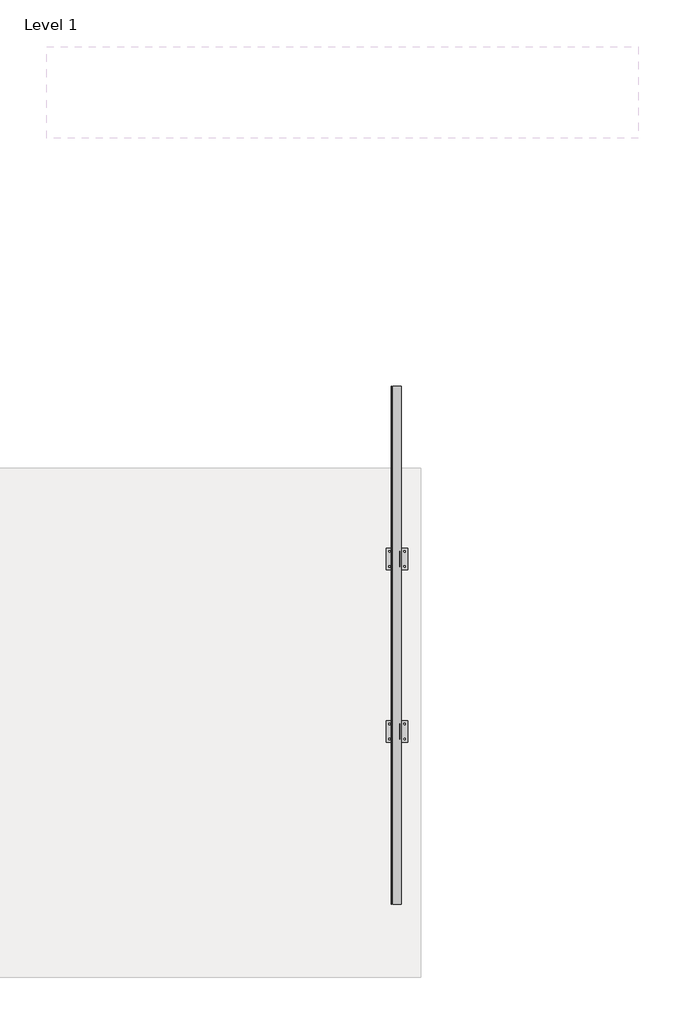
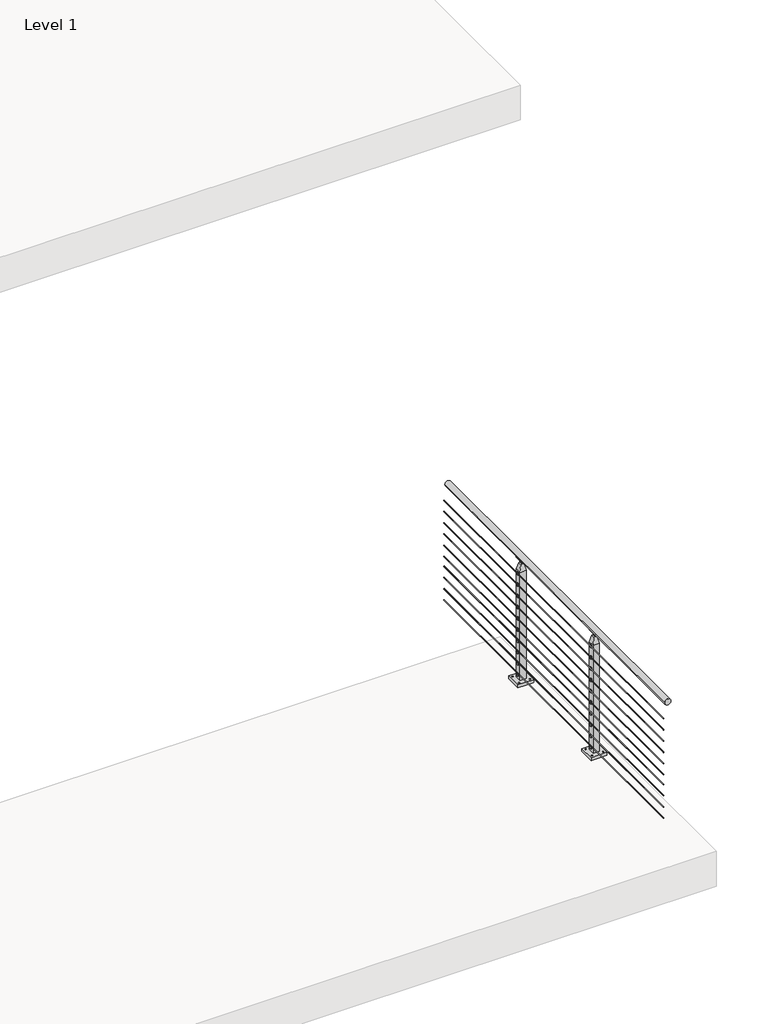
# One storey, part 6 of 26: 1 railing.
"""IFC4 building model written with IfcOpenShell, lengths in millimetres."""

from ifc_helpers import new_model, si_unit, point, frame, frame_2d, origin, origin_with_axes, place, context, project, spatial, polyline, circle_curve, trimmed, segment, composite_curve, outline, extrude, faceted_brep, element, save
from ifc_brep_helpers import plane_surface, cylinder_surface, advanced_brep

model = new_model("IFC4")

# Units and contexts
model_context = context("Model", 3, world=origin())
ifc_project = project(units=[si_unit("LENGTHUNIT", "METRE", prefix="MILLI")], contexts=[model_context])

# Site, building, storey
site = spatial("IfcSite", under=ifc_project)
building = spatial("IfcBuilding", under=site)
storey = spatial("IfcBuildingStorey", under=building, Name="Level 1", Elevation=0.0)

# Railing
placement = place(None, origin())
element("IfcRailing", 1, ObjectType="VIVA-CUBE-Multiline-Cable-Floor Mount-Straight", at=placement, inside=storey, context=model_context, shape_type="SolidModel", body=[
    extrude(outline(composite_curve([segment(trimmed(circle_curve(frame_2d((1054.1, 19603.8855247)), 25.4), [point((1054.1, 19629.2855247))], [point((1054.1, 19578.4855247))], False, "CARTESIAN"), True, "CONTINUOUS"), segment(trimmed(circle_curve(frame_2d((1054.1, 19603.8855247)), 25.4), [point((1054.1, 19578.4855247))], [point((1054.1, 19629.2855247))], False, "CARTESIAN"), True, "CONTINUOUS")], self_intersect=False)), frame((0.0, -73352.7943064, 0.0), z_axis=(0.0, 1.0, 0.0), x_axis=(0.0, 0.0, 1.0)), (0.0, 0.0, 1.0), 3048.0),
    extrude(outline(composite_curve([segment(trimmed(circle_curve(frame_2d((924.7124, 19570.8655247)), 2.3876), [point((924.7124, 19568.4779247))], [point((924.7124, 19573.2531247))], False, "CARTESIAN"), True, "CONTINUOUS"), segment(trimmed(circle_curve(frame_2d((924.7124, 19570.8655247)), 2.3876), [point((924.7124, 19573.2531247))], [point((924.7124, 19568.4779247))], False, "CARTESIAN"), True, "CONTINUOUS")], self_intersect=False)), frame((0.0, -73352.7943064, 0.0), z_axis=(0.0, 1.0, 0.0), x_axis=(0.0, 0.0, 1.0)), (0.0, 0.0, 1.0), 3048.0),
    extrude(outline(composite_curve([segment(trimmed(circle_curve(frame_2d((829.4624, 19570.8655247)), 2.3876), [point((829.4624, 19568.4779247))], [point((829.4624, 19573.2531247))], False, "CARTESIAN"), True, "CONTINUOUS"), segment(trimmed(circle_curve(frame_2d((829.4624, 19570.8655247)), 2.3876), [point((829.4624, 19573.2531247))], [point((829.4624, 19568.4779247))], False, "CARTESIAN"), True, "CONTINUOUS")], self_intersect=False)), frame((0.0, -73352.7943064, 0.0), z_axis=(0.0, 1.0, 0.0), x_axis=(0.0, 0.0, 1.0)), (0.0, 0.0, 1.0), 3048.0),
    extrude(outline(composite_curve([segment(trimmed(circle_curve(frame_2d((734.2124, 19570.8655247)), 2.3876), [point((734.2124, 19568.4779247))], [point((734.2124, 19573.2531247))], False, "CARTESIAN"), True, "CONTINUOUS"), segment(trimmed(circle_curve(frame_2d((734.2124, 19570.8655247)), 2.3876), [point((734.2124, 19573.2531247))], [point((734.2124, 19568.4779247))], False, "CARTESIAN"), True, "CONTINUOUS")], self_intersect=False)), frame((0.0, -73352.7943064, 0.0), z_axis=(0.0, 1.0, 0.0), x_axis=(0.0, 0.0, 1.0)), (0.0, 0.0, 1.0), 3048.0),
    extrude(outline(composite_curve([segment(trimmed(circle_curve(frame_2d((638.9624, 19570.8655247)), 2.3876), [point((638.9624, 19568.4779247))], [point((638.9624, 19573.2531247))], False, "CARTESIAN"), True, "CONTINUOUS"), segment(trimmed(circle_curve(frame_2d((638.9624, 19570.8655247)), 2.3876), [point((638.9624, 19573.2531247))], [point((638.9624, 19568.4779247))], False, "CARTESIAN"), True, "CONTINUOUS")], self_intersect=False)), frame((0.0, -73352.7943064, 0.0), z_axis=(0.0, 1.0, 0.0), x_axis=(0.0, 0.0, 1.0)), (0.0, 0.0, 1.0), 3048.0),
    extrude(outline(composite_curve([segment(trimmed(circle_curve(frame_2d((543.7124, 19570.8655247)), 2.3876), [point((543.7124, 19568.4779247))], [point((543.7124, 19573.2531247))], False, "CARTESIAN"), True, "CONTINUOUS"), segment(trimmed(circle_curve(frame_2d((543.7124, 19570.8655247)), 2.3876), [point((543.7124, 19573.2531247))], [point((543.7124, 19568.4779247))], False, "CARTESIAN"), True, "CONTINUOUS")], self_intersect=False)), frame((0.0, -73352.7943064, 0.0), z_axis=(0.0, 1.0, 0.0), x_axis=(0.0, 0.0, 1.0)), (0.0, 0.0, 1.0), 3048.0),
    extrude(outline(composite_curve([segment(trimmed(circle_curve(frame_2d((448.4624, 19570.8655247)), 2.3876), [point((448.4624, 19568.4779247))], [point((448.4624, 19573.2531247))], False, "CARTESIAN"), True, "CONTINUOUS"), segment(trimmed(circle_curve(frame_2d((448.4624, 19570.8655247)), 2.3876), [point((448.4624, 19573.2531247))], [point((448.4624, 19568.4779247))], False, "CARTESIAN"), True, "CONTINUOUS")], self_intersect=False)), frame((0.0, -73352.7943064, 0.0), z_axis=(0.0, 1.0, 0.0), x_axis=(0.0, 0.0, 1.0)), (0.0, 0.0, 1.0), 3048.0),
    extrude(outline(composite_curve([segment(trimmed(circle_curve(frame_2d((365.9124, 19570.8655247)), 2.3876), [point((365.9124, 19568.4779247))], [point((365.9124, 19573.2531247))], False, "CARTESIAN"), True, "CONTINUOUS"), segment(trimmed(circle_curve(frame_2d((365.9124, 19570.8655247)), 2.3876), [point((365.9124, 19573.2531247))], [point((365.9124, 19568.4779247))], False, "CARTESIAN"), True, "CONTINUOUS")], self_intersect=False)), frame((0.0, -73352.7943064, 0.0), z_axis=(0.0, 1.0, 0.0), x_axis=(0.0, 0.0, 1.0)), (0.0, 0.0, 1.0), 3048.0),
    extrude(outline(composite_curve([segment(trimmed(circle_curve(frame_2d((270.6624, 19570.8655247)), 2.3876), [point((270.6624, 19568.4779247))], [point((270.6624, 19573.2531247))], False, "CARTESIAN"), True, "CONTINUOUS"), segment(trimmed(circle_curve(frame_2d((270.6624, 19570.8655247)), 2.3876), [point((270.6624, 19573.2531247))], [point((270.6624, 19568.4779247))], False, "CARTESIAN"), True, "CONTINUOUS")], self_intersect=False)), frame((0.0, -73352.7943064, 0.0), z_axis=(0.0, 1.0, 0.0), x_axis=(0.0, 0.0, 1.0)), (0.0, 0.0, 1.0), 3048.0),
    extrude(outline(composite_curve([segment(trimmed(circle_curve(frame_2d((175.4124, 19570.8655247)), 2.3876), [point((175.4124, 19568.4779247))], [point((175.4124, 19573.2531247))], False, "CARTESIAN"), True, "CONTINUOUS"), segment(trimmed(circle_curve(frame_2d((175.4124, 19570.8655247)), 2.3876), [point((175.4124, 19573.2531247))], [point((175.4124, 19568.4779247))], False, "CARTESIAN"), True, "CONTINUOUS")], self_intersect=False)), frame((0.0, -73352.7943064, 0.0), z_axis=(0.0, 1.0, 0.0), x_axis=(0.0, 0.0, 1.0)), (0.0, 0.0, 1.0), 3048.0),
    extrude(outline(composite_curve([segment(trimmed(circle_curve(frame_2d((80.1624, 19570.8655247)), 2.3876), [point((80.1624, 19568.4779247))], [point((80.1624, 19573.2531247))], False, "CARTESIAN"), True, "CONTINUOUS"), segment(trimmed(circle_curve(frame_2d((80.1624, 19570.8655247)), 2.3876), [point((80.1624, 19573.2531247))], [point((80.1624, 19568.4779247))], False, "CARTESIAN"), True, "CONTINUOUS")], self_intersect=False)), frame((0.0, -73352.7943064, 0.0), z_axis=(0.0, 1.0, 0.0), x_axis=(0.0, 0.0, 1.0)), (0.0, 0.0, 1.0), 3048.0),
    advanced_brep(
    [(19573.1423505, -71307.3340985, 63.5), (19573.1423505, -71332.6670144, 63.5), (19573.1423505, -71320.0005564, 63.5), (19578.4763505, -71307.3340985, 63.5), (19578.4763505, -71332.6670144, 63.5), (19578.4763505, -71320.0005564, 63.5)],
    [
        (0, 1, circle_curve(frame((19573.1423505, -71320.0005564, 63.5), z_axis=(-1.0, 0.0, 0.0), x_axis=(0.0, -1.0, 0.0)), 12.666458)),
        (1, 2),
        (2, 0),
        (1, 0, circle_curve(frame((19573.1423505, -71320.0005564, 63.5), z_axis=(-1.0, 0.0, 0.0), x_axis=(0.0, -1.0, 0.0)), 12.666458)),
        (3, 4, circle_curve(frame((19578.4763505, -71320.0005564, 63.5), z_axis=(-1.0, 0.0, 0.0), x_axis=(0.0, -1.0, 0.0)), 12.666458)),
        (4, 1),
        (0, 3),
        (4, 3, circle_curve(frame((19578.4763505, -71320.0005564, 63.5), z_axis=(-1.0, 0.0, 0.0), x_axis=(0.0, -1.0, 0.0)), 12.666458)),
        (5, 4),
        (3, 5),
    ],
    [
        plane_surface(frame((19573.1423505, -71320.0005564, 63.5), z_axis=(-1.0, 0.0, 0.0), x_axis=(0.0, -1.0, 0.0))),
        cylinder_surface(frame((19705.4855247, -71320.0005564, 63.5), z_axis=(1.0, 0.0, 0.0), x_axis=(0.0, -1.0, 0.0)), 12.666458),
        plane_surface(frame((19578.4763505, -71320.0005564, 63.5), z_axis=(1.0, 0.0, 0.0), x_axis=(0.0, -1.0, 0.0))),
    ],
    [
        (0, [[1, 2, 3]]),
        (0, [[4, -3, -2]]),
        (1, [[5, 6, -1, 7]]),
        (1, [[8, -7, -4, -6]]),
        (2, [[9, -5, 10]]),
        (2, [[-10, -8, -9]]),
    ],
),
    advanced_brep(
    [(19573.1423505, -71307.3340985, 158.75), (19573.1423505, -71332.6670144, 158.75), (19573.1423505, -71320.0005564, 158.75), (19578.4763505, -71307.3340985, 158.75), (19578.4763505, -71332.6670144, 158.75), (19578.4763505, -71320.0005564, 158.75)],
    [
        (0, 1, circle_curve(frame((19573.1423505, -71320.0005564, 158.75), z_axis=(-1.0, 0.0, 0.0), x_axis=(0.0, -1.0, 0.0)), 12.666458)),
        (1, 2),
        (2, 0),
        (1, 0, circle_curve(frame((19573.1423505, -71320.0005564, 158.75), z_axis=(-1.0, 0.0, 0.0), x_axis=(0.0, -1.0, 0.0)), 12.666458)),
        (3, 4, circle_curve(frame((19578.4763505, -71320.0005564, 158.75), z_axis=(-1.0, 0.0, 0.0), x_axis=(0.0, -1.0, 0.0)), 12.666458)),
        (4, 1),
        (0, 3),
        (4, 3, circle_curve(frame((19578.4763505, -71320.0005564, 158.75), z_axis=(-1.0, 0.0, 0.0), x_axis=(0.0, -1.0, 0.0)), 12.666458)),
        (5, 4),
        (3, 5),
    ],
    [
        plane_surface(frame((19573.1423505, -71320.0005564, 158.75), z_axis=(-1.0, 0.0, 0.0), x_axis=(0.0, -1.0, 0.0))),
        cylinder_surface(frame((19705.4855247, -71320.0005564, 158.75), z_axis=(1.0, 0.0, 0.0), x_axis=(0.0, -1.0, 0.0)), 12.666458),
        plane_surface(frame((19578.4763505, -71320.0005564, 158.75), z_axis=(1.0, 0.0, 0.0), x_axis=(0.0, -1.0, 0.0))),
    ],
    [
        (0, [[1, 2, 3]]),
        (0, [[4, -3, -2]]),
        (1, [[5, 6, -1, 7]]),
        (1, [[8, -7, -4, -6]]),
        (2, [[9, -5, 10]]),
        (2, [[-10, -8, -9]]),
    ],
),
    advanced_brep(
    [(19573.1423505, -71307.3340985, 254.0), (19573.1423505, -71332.6670144, 254.0), (19573.1423505, -71320.0005564, 254.0), (19578.4763505, -71307.3340985, 254.0), (19578.4763505, -71332.6670144, 254.0), (19578.4763505, -71320.0005564, 254.0)],
    [
        (0, 1, circle_curve(frame((19573.1423505, -71320.0005564, 254.0), z_axis=(-1.0, 0.0, 0.0), x_axis=(0.0, -1.0, 0.0)), 12.666458)),
        (1, 2),
        (2, 0),
        (1, 0, circle_curve(frame((19573.1423505, -71320.0005564, 254.0), z_axis=(-1.0, 0.0, 0.0), x_axis=(0.0, -1.0, 0.0)), 12.666458)),
        (3, 4, circle_curve(frame((19578.4763505, -71320.0005564, 254.0), z_axis=(-1.0, 0.0, 0.0), x_axis=(0.0, -1.0, 0.0)), 12.666458)),
        (4, 1),
        (0, 3),
        (4, 3, circle_curve(frame((19578.4763505, -71320.0005564, 254.0), z_axis=(-1.0, 0.0, 0.0), x_axis=(0.0, -1.0, 0.0)), 12.666458)),
        (5, 4),
        (3, 5),
    ],
    [
        plane_surface(frame((19573.1423505, -71320.0005564, 254.0), z_axis=(-1.0, 0.0, 0.0), x_axis=(0.0, -1.0, 0.0))),
        cylinder_surface(frame((19705.4855247, -71320.0005564, 254.0), z_axis=(1.0, 0.0, 0.0), x_axis=(0.0, -1.0, 0.0)), 12.666458),
        plane_surface(frame((19578.4763505, -71320.0005564, 254.0), z_axis=(1.0, 0.0, 0.0), x_axis=(0.0, -1.0, 0.0))),
    ],
    [
        (0, [[1, 2, 3]]),
        (0, [[4, -3, -2]]),
        (1, [[5, 6, -1, 7]]),
        (1, [[8, -7, -4, -6]]),
        (2, [[9, -5, 10]]),
        (2, [[-10, -8, -9]]),
    ],
),
    advanced_brep(
    [(19573.1423505, -71307.3340985, 349.25), (19573.1423505, -71332.6670144, 349.25), (19573.1423505, -71320.0005564, 349.25), (19578.4763505, -71307.3340985, 349.25), (19578.4763505, -71332.6670144, 349.25), (19578.4763505, -71320.0005564, 349.25)],
    [
        (0, 1, circle_curve(frame((19573.1423505, -71320.0005564, 349.25), z_axis=(-1.0, 0.0, 0.0), x_axis=(0.0, -1.0, 0.0)), 12.666458)),
        (1, 2),
        (2, 0),
        (1, 0, circle_curve(frame((19573.1423505, -71320.0005564, 349.25), z_axis=(-1.0, 0.0, 0.0), x_axis=(0.0, -1.0, 0.0)), 12.666458)),
        (3, 4, circle_curve(frame((19578.4763505, -71320.0005564, 349.25), z_axis=(-1.0, 0.0, 0.0), x_axis=(0.0, -1.0, 0.0)), 12.666458)),
        (4, 1),
        (0, 3),
        (4, 3, circle_curve(frame((19578.4763505, -71320.0005564, 349.25), z_axis=(-1.0, 0.0, 0.0), x_axis=(0.0, -1.0, 0.0)), 12.666458)),
        (5, 4),
        (3, 5),
    ],
    [
        plane_surface(frame((19573.1423505, -71320.0005564, 349.25), z_axis=(-1.0, 0.0, 0.0), x_axis=(0.0, -1.0, 0.0))),
        cylinder_surface(frame((19705.4855247, -71320.0005564, 349.25), z_axis=(1.0, 0.0, 0.0), x_axis=(0.0, -1.0, 0.0)), 12.666458),
        plane_surface(frame((19578.4763505, -71320.0005564, 349.25), z_axis=(1.0, 0.0, 0.0), x_axis=(0.0, -1.0, 0.0))),
    ],
    [
        (0, [[1, 2, 3]]),
        (0, [[4, -3, -2]]),
        (1, [[5, 6, -1, 7]]),
        (1, [[8, -7, -4, -6]]),
        (2, [[9, -5, 10]]),
        (2, [[-10, -8, -9]]),
    ],
),
    advanced_brep(
    [(19573.1423505, -71307.3340985, 444.5), (19573.1423505, -71332.6670144, 444.5), (19573.1423505, -71320.0005564, 444.5), (19578.4763505, -71307.3340985, 444.5), (19578.4763505, -71332.6670144, 444.5), (19578.4763505, -71320.0005564, 444.5)],
    [
        (0, 1, circle_curve(frame((19573.1423505, -71320.0005564, 444.5), z_axis=(-1.0, 0.0, 0.0), x_axis=(0.0, -1.0, 0.0)), 12.666458)),
        (1, 2),
        (2, 0),
        (1, 0, circle_curve(frame((19573.1423505, -71320.0005564, 444.5), z_axis=(-1.0, 0.0, 0.0), x_axis=(0.0, -1.0, 0.0)), 12.666458)),
        (3, 4, circle_curve(frame((19578.4763505, -71320.0005564, 444.5), z_axis=(-1.0, 0.0, 0.0), x_axis=(0.0, -1.0, 0.0)), 12.666458)),
        (4, 1),
        (0, 3),
        (4, 3, circle_curve(frame((19578.4763505, -71320.0005564, 444.5), z_axis=(-1.0, 0.0, 0.0), x_axis=(0.0, -1.0, 0.0)), 12.666458)),
        (5, 4),
        (3, 5),
    ],
    [
        plane_surface(frame((19573.1423505, -71320.0005564, 444.5), z_axis=(-1.0, 0.0, 0.0), x_axis=(0.0, -1.0, 0.0))),
        cylinder_surface(frame((19705.4855247, -71320.0005564, 444.5), z_axis=(1.0, 0.0, 0.0), x_axis=(0.0, -1.0, 0.0)), 12.666458),
        plane_surface(frame((19578.4763505, -71320.0005564, 444.5), z_axis=(1.0, 0.0, 0.0), x_axis=(0.0, -1.0, 0.0))),
    ],
    [
        (0, [[1, 2, 3]]),
        (0, [[4, -3, -2]]),
        (1, [[5, 6, -1, 7]]),
        (1, [[8, -7, -4, -6]]),
        (2, [[9, -5, 10]]),
        (2, [[-10, -8, -9]]),
    ],
),
    advanced_brep(
    [(19573.1423505, -71307.3340985, 539.75), (19573.1423505, -71332.6670144, 539.75), (19573.1423505, -71320.0005564, 539.75), (19578.4763505, -71307.3340985, 539.75), (19578.4763505, -71332.6670144, 539.75), (19578.4763505, -71320.0005564, 539.75)],
    [
        (0, 1, circle_curve(frame((19573.1423505, -71320.0005564, 539.75), z_axis=(-1.0, 0.0, 0.0), x_axis=(0.0, -1.0, 0.0)), 12.666458)),
        (1, 2),
        (2, 0),
        (1, 0, circle_curve(frame((19573.1423505, -71320.0005564, 539.75), z_axis=(-1.0, 0.0, 0.0), x_axis=(0.0, -1.0, 0.0)), 12.666458)),
        (3, 4, circle_curve(frame((19578.4763505, -71320.0005564, 539.75), z_axis=(-1.0, 0.0, 0.0), x_axis=(0.0, -1.0, 0.0)), 12.666458)),
        (4, 1),
        (0, 3),
        (4, 3, circle_curve(frame((19578.4763505, -71320.0005564, 539.75), z_axis=(-1.0, 0.0, 0.0), x_axis=(0.0, -1.0, 0.0)), 12.666458)),
        (5, 4),
        (3, 5),
    ],
    [
        plane_surface(frame((19573.1423505, -71320.0005564, 539.75), z_axis=(-1.0, 0.0, 0.0), x_axis=(0.0, -1.0, 0.0))),
        cylinder_surface(frame((19705.4855247, -71320.0005564, 539.75), z_axis=(1.0, 0.0, 0.0), x_axis=(0.0, -1.0, 0.0)), 12.666458),
        plane_surface(frame((19578.4763505, -71320.0005564, 539.75), z_axis=(1.0, 0.0, 0.0), x_axis=(0.0, -1.0, 0.0))),
    ],
    [
        (0, [[1, 2, 3]]),
        (0, [[4, -3, -2]]),
        (1, [[5, 6, -1, 7]]),
        (1, [[8, -7, -4, -6]]),
        (2, [[9, -5, 10]]),
        (2, [[-10, -8, -9]]),
    ],
),
    advanced_brep(
    [(19573.1423505, -71307.3340985, 635.0), (19573.1423505, -71332.6670144, 635.0), (19573.1423505, -71320.0005564, 635.0), (19578.4763505, -71307.3340985, 635.0), (19578.4763505, -71332.6670144, 635.0), (19578.4763505, -71320.0005564, 635.0)],
    [
        (0, 1, circle_curve(frame((19573.1423505, -71320.0005564, 635.0), z_axis=(-1.0, 0.0, 0.0), x_axis=(0.0, -1.0, 0.0)), 12.666458)),
        (1, 2),
        (2, 0),
        (1, 0, circle_curve(frame((19573.1423505, -71320.0005564, 635.0), z_axis=(-1.0, 0.0, 0.0), x_axis=(0.0, -1.0, 0.0)), 12.666458)),
        (3, 4, circle_curve(frame((19578.4763505, -71320.0005564, 635.0), z_axis=(-1.0, 0.0, 0.0), x_axis=(0.0, -1.0, 0.0)), 12.666458)),
        (4, 1),
        (0, 3),
        (4, 3, circle_curve(frame((19578.4763505, -71320.0005564, 635.0), z_axis=(-1.0, 0.0, 0.0), x_axis=(0.0, -1.0, 0.0)), 12.666458)),
        (5, 4),
        (3, 5),
    ],
    [
        plane_surface(frame((19573.1423505, -71320.0005564, 635.0), z_axis=(-1.0, 0.0, 0.0), x_axis=(0.0, -1.0, 0.0))),
        cylinder_surface(frame((19705.4855247, -71320.0005564, 635.0), z_axis=(1.0, 0.0, 0.0), x_axis=(0.0, -1.0, 0.0)), 12.666458),
        plane_surface(frame((19578.4763505, -71320.0005564, 635.0), z_axis=(1.0, 0.0, 0.0), x_axis=(0.0, -1.0, 0.0))),
    ],
    [
        (0, [[1, 2, 3]]),
        (0, [[4, -3, -2]]),
        (1, [[5, 6, -1, 7]]),
        (1, [[8, -7, -4, -6]]),
        (2, [[9, -5, 10]]),
        (2, [[-10, -8, -9]]),
    ],
),
    advanced_brep(
    [(19573.1423505, -71307.3340985, 730.25), (19573.1423505, -71332.6670144, 730.25), (19573.1423505, -71320.0005564, 730.25), (19578.4763505, -71307.3340985, 730.25), (19578.4763505, -71332.6670144, 730.25), (19578.4763505, -71320.0005564, 730.25)],
    [
        (0, 1, circle_curve(frame((19573.1423505, -71320.0005564, 730.25), z_axis=(-1.0, 0.0, 0.0), x_axis=(0.0, -1.0, 0.0)), 12.666458)),
        (1, 2),
        (2, 0),
        (1, 0, circle_curve(frame((19573.1423505, -71320.0005564, 730.25), z_axis=(-1.0, 0.0, 0.0), x_axis=(0.0, -1.0, 0.0)), 12.666458)),
        (3, 4, circle_curve(frame((19578.4763505, -71320.0005564, 730.25), z_axis=(-1.0, 0.0, 0.0), x_axis=(0.0, -1.0, 0.0)), 12.666458)),
        (4, 1),
        (0, 3),
        (4, 3, circle_curve(frame((19578.4763505, -71320.0005564, 730.25), z_axis=(-1.0, 0.0, 0.0), x_axis=(0.0, -1.0, 0.0)), 12.666458)),
        (5, 4),
        (3, 5),
    ],
    [
        plane_surface(frame((19573.1423505, -71320.0005564, 730.25), z_axis=(-1.0, 0.0, 0.0), x_axis=(0.0, -1.0, 0.0))),
        cylinder_surface(frame((19705.4855247, -71320.0005564, 730.25), z_axis=(1.0, 0.0, 0.0), x_axis=(0.0, -1.0, 0.0)), 12.666458),
        plane_surface(frame((19578.4763505, -71320.0005564, 730.25), z_axis=(1.0, 0.0, 0.0), x_axis=(0.0, -1.0, 0.0))),
    ],
    [
        (0, [[1, 2, 3]]),
        (0, [[4, -3, -2]]),
        (1, [[5, 6, -1, 7]]),
        (1, [[8, -7, -4, -6]]),
        (2, [[9, -5, 10]]),
        (2, [[-10, -8, -9]]),
    ],
),
    advanced_brep(
    [(19573.1423505, -71307.3340985, 825.5), (19573.1423505, -71332.6670144, 825.5), (19573.1423505, -71320.0005564, 825.5), (19578.4763505, -71307.3340985, 825.5), (19578.4763505, -71332.6670144, 825.5), (19578.4763505, -71320.0005564, 825.5)],
    [
        (0, 1, circle_curve(frame((19573.1423505, -71320.0005564, 825.5), z_axis=(-1.0, 0.0, 0.0), x_axis=(0.0, -1.0, 0.0)), 12.666458)),
        (1, 2),
        (2, 0),
        (1, 0, circle_curve(frame((19573.1423505, -71320.0005564, 825.5), z_axis=(-1.0, 0.0, 0.0), x_axis=(0.0, -1.0, 0.0)), 12.666458)),
        (3, 4, circle_curve(frame((19578.4763505, -71320.0005564, 825.5), z_axis=(-1.0, 0.0, 0.0), x_axis=(0.0, -1.0, 0.0)), 12.666458)),
        (4, 1),
        (0, 3),
        (4, 3, circle_curve(frame((19578.4763505, -71320.0005564, 825.5), z_axis=(-1.0, 0.0, 0.0), x_axis=(0.0, -1.0, 0.0)), 12.666458)),
        (5, 4),
        (3, 5),
    ],
    [
        plane_surface(frame((19573.1423505, -71320.0005564, 825.5), z_axis=(-1.0, 0.0, 0.0), x_axis=(0.0, -1.0, 0.0))),
        cylinder_surface(frame((19705.4855247, -71320.0005564, 825.5), z_axis=(1.0, 0.0, 0.0), x_axis=(0.0, -1.0, 0.0)), 12.666458),
        plane_surface(frame((19578.4763505, -71320.0005564, 825.5), z_axis=(1.0, 0.0, 0.0), x_axis=(0.0, -1.0, 0.0))),
    ],
    [
        (0, [[1, 2, 3]]),
        (0, [[4, -3, -2]]),
        (1, [[5, 6, -1, 7]]),
        (1, [[8, -7, -4, -6]]),
        (2, [[9, -5, 10]]),
        (2, [[-10, -8, -9]]),
    ],
),
    advanced_brep(
    [(19573.1423505, -71307.3340985, 920.75), (19573.1423505, -71332.6670144, 920.75), (19573.1423505, -71320.0005564, 920.75), (19578.4763505, -71307.3340985, 920.75), (19578.4763505, -71332.6670144, 920.75), (19578.4763505, -71320.0005564, 920.75)],
    [
        (0, 1, circle_curve(frame((19573.1423505, -71320.0005564, 920.75), z_axis=(-1.0, 0.0, 0.0), x_axis=(0.0, -1.0, 0.0)), 12.666458)),
        (1, 2),
        (2, 0),
        (1, 0, circle_curve(frame((19573.1423505, -71320.0005564, 920.75), z_axis=(-1.0, 0.0, 0.0), x_axis=(0.0, -1.0, 0.0)), 12.666458)),
        (3, 4, circle_curve(frame((19578.4763505, -71320.0005564, 920.75), z_axis=(-1.0, 0.0, 0.0), x_axis=(0.0, -1.0, 0.0)), 12.666458)),
        (4, 1),
        (0, 3),
        (4, 3, circle_curve(frame((19578.4763505, -71320.0005564, 920.75), z_axis=(-1.0, 0.0, 0.0), x_axis=(0.0, -1.0, 0.0)), 12.666458)),
        (5, 4),
        (3, 5),
    ],
    [
        plane_surface(frame((19573.1423505, -71320.0005564, 920.75), z_axis=(-1.0, 0.0, 0.0), x_axis=(0.0, -1.0, 0.0))),
        cylinder_surface(frame((19705.4855247, -71320.0005564, 920.75), z_axis=(1.0, 0.0, 0.0), x_axis=(0.0, -1.0, 0.0)), 12.666458),
        plane_surface(frame((19578.4763505, -71320.0005564, 920.75), z_axis=(1.0, 0.0, 0.0), x_axis=(0.0, -1.0, 0.0))),
    ],
    [
        (0, [[1, 2, 3]]),
        (0, [[4, -3, -2]]),
        (1, [[5, 6, -1, 7]]),
        (1, [[8, -7, -4, -6]]),
        (2, [[9, -5, 10]]),
        (2, [[-10, -8, -9]]),
    ],
),
    extrude(outline(polyline([(19540.3855247, -71256.8974314), (19667.3855247, -71256.8974314), (19667.3855247, -71383.8974314), (19540.3855247, -71383.8974314), (19540.3855247, -71256.8974314)]), holes=[composite_curve([segment(trimmed(circle_curve(frame_2d((19648.3355247, -71364.8474314)), 4.7625), [point((19653.0980247, -71364.8474314))], [point((19643.5730247, -71364.8474314))], True, "CARTESIAN"), True, "CONTINUOUS"), segment(trimmed(circle_curve(frame_2d((19648.3355247, -71364.8474314)), 4.7625), [point((19643.5730247, -71364.8474314))], [point((19653.0980247, -71364.8474314))], True, "CARTESIAN"), True, "CONTINUOUS")], self_intersect=False), composite_curve([segment(trimmed(circle_curve(frame_2d((19559.4355247, -71364.8474314)), 4.7625), [point((19564.1980247, -71364.8474314))], [point((19554.6730247, -71364.8474314))], True, "CARTESIAN"), True, "CONTINUOUS"), segment(trimmed(circle_curve(frame_2d((19559.4355247, -71364.8474314)), 4.7625), [point((19554.6730247, -71364.8474314))], [point((19564.1980247, -71364.8474314))], True, "CARTESIAN"), True, "CONTINUOUS")], self_intersect=False), composite_curve([segment(trimmed(circle_curve(frame_2d((19648.3355247, -71275.9474314)), 4.7625), [point((19653.0980247, -71275.9474314))], [point((19643.5730247, -71275.9474314))], True, "CARTESIAN"), True, "CONTINUOUS"), segment(trimmed(circle_curve(frame_2d((19648.3355247, -71275.9474314)), 4.7625), [point((19643.5730247, -71275.9474314))], [point((19653.0980247, -71275.9474314))], True, "CARTESIAN"), True, "CONTINUOUS")], self_intersect=False), composite_curve([segment(trimmed(circle_curve(frame_2d((19559.4355247, -71275.9474314)), 4.7625), [point((19564.1980247, -71275.9474314))], [point((19554.6730247, -71275.9474314))], True, "CARTESIAN"), True, "CONTINUOUS"), segment(trimmed(circle_curve(frame_2d((19559.4355247, -71275.9474314)), 4.7625), [point((19554.6730247, -71275.9474314))], [point((19564.1980247, -71275.9474314))], True, "CARTESIAN"), True, "CONTINUOUS")], self_intersect=False)]), origin_with_axes(), (0.0, 0.0, 1.0), 25.4),
    faceted_brep([(19591.1855247, -71307.6974314, 997.2902749), (19591.1855247, -71333.0974314, 997.2902749), (19599.9167747, -71333.0974314, 997.2902749), (19599.9167747, -71307.6974314, 997.2902749), (19616.5855247, -71333.0974314, 997.2902749), (19616.5855247, -71307.6974314, 997.2902749), (19607.8542747, -71307.6974314, 997.2902749), (19607.8542747, -71333.0974314, 997.2902749), (19578.4855247, -71294.9974314, 941.1347854), (19629.2855247, -71294.9974314, 941.1347854), (19578.4855247, -71345.7974314, 941.1347854), (19629.2855247, -71345.7974314, 941.1347854), (19578.4855247, -71294.9974314, 25.4), (19629.2855247, -71294.9974314, 25.4), (19629.2855247, -71345.7974314, 25.4), (19578.4855247, -71345.7974314, 25.4), (19607.8542747, -71333.0974314, 1009.3306013), (19607.8542747, -71307.6974314, 1009.3306013), (19599.9167747, -71307.6974314, 1009.3306013), (19599.9167747, -71333.0974314, 1009.3306013)], [[[0, 1, 2, 3]], [[4, 5, 6, 7]], [[8, 0, 3, 6, 5, 9]], [[1, 0, 8, 10]], [[1, 10, 11, 4, 7, 2]], [[5, 4, 11, 9]], [[12, 13, 14, 15]], [[12, 15, 10, 8]], [[15, 14, 11, 10]], [[14, 13, 9, 11]], [[13, 12, 8, 9]], [[16, 17, 18, 19]], [[17, 16, 7, 6]], [[18, 17, 6, 3]], [[19, 18, 3, 2]], [[16, 19, 2, 7]]]),
    extrude(outline(composite_curve([segment(trimmed(circle_curve(frame_2d((1054.1433184, 19603.7887963)), 25.4345159), [point((1032.0284941, 19616.3525992))], [point((1031.9335733, 19591.3935626))], True, "CARTESIAN"), True, "CONTINUOUS"), segment(trimmed(circle_curve(frame_2d((1029.4310885, 19590.1489094)), 2.7949225), [point((1031.9335733, 19591.3935626))], [point((1027.0585031, 19588.6716044))], False, "CARTESIAN"), True, "CONTINUOUS"), segment(trimmed(circle_curve(frame_2d((1054.905945, 19603.9222594)), 31.75), [point((1027.0585031, 19588.6716044))], [point((1027.6392616, 19620.1884966))], False, "CARTESIAN"), True, "CONTINUOUS"), segment(trimmed(circle_curve(frame_2d((1029.5101807, 19617.9001569)), 2.9558141), [point((1027.6392616, 19620.1884966))], [point((1032.0284941, 19616.3525992))], False, "CARTESIAN"), True, "CONTINUOUS")], self_intersect=False)), frame((0.0, -71365.6348314, 0.0), z_axis=(0.0, 1.0, 0.0), x_axis=(0.0, 0.0, 1.0)), (0.0, 0.0, 1.0), 90.4748),
    extrude(outline(composite_curve([segment(trimmed(circle_curve(frame_2d((-71293.3295165, 1009.0006022)), 14.3679149), [point((-71293.3295165, 1023.3685171))], [point((-71307.6974314, 1009.0006022))], True, "CARTESIAN"), True, "CONTINUOUS"), segment(trimmed(circle_curve(frame_2d((-71320.3974314, 1009.0006022)), 12.7), [point((-71307.6974314, 1009.0006022))], [point((-71333.0974314, 1009.0006022))], False, "CARTESIAN"), True, "CONTINUOUS"), segment(trimmed(circle_curve(frame_2d((-71347.4653463, 1009.0006022)), 14.3679149), [point((-71333.0974314, 1009.0006022))], [point((-71347.4653463, 1023.3685171))], True, "CARTESIAN"), True, "CONTINUOUS"), segment(polyline([(-71347.4653463, 1023.3685171), (-71293.3295165, 1023.3685171)]), True, "CONTINUOUS")], self_intersect=False)), frame((19601.3455247, 0.0, 0.0), z_axis=(1.0, 0.0, 0.0), x_axis=(0.0, 1.0, 0.0)), (0.0, 0.0, 1.0), 5.08),
    advanced_brep(
    [(19573.1423505, -72323.3340985, 63.5), (19573.1423505, -72348.6670144, 63.5), (19573.1423505, -72336.0005564, 63.5), (19578.4763505, -72323.3340985, 63.5), (19578.4763505, -72348.6670144, 63.5), (19578.4763505, -72336.0005564, 63.5)],
    [
        (0, 1, circle_curve(frame((19573.1423505, -72336.0005564, 63.5), z_axis=(-1.0, 0.0, 0.0), x_axis=(0.0, -1.0, 0.0)), 12.666458)),
        (1, 2),
        (2, 0),
        (1, 0, circle_curve(frame((19573.1423505, -72336.0005564, 63.5), z_axis=(-1.0, 0.0, 0.0), x_axis=(0.0, -1.0, 0.0)), 12.666458)),
        (3, 4, circle_curve(frame((19578.4763505, -72336.0005564, 63.5), z_axis=(-1.0, 0.0, 0.0), x_axis=(0.0, -1.0, 0.0)), 12.666458)),
        (4, 1),
        (0, 3),
        (4, 3, circle_curve(frame((19578.4763505, -72336.0005564, 63.5), z_axis=(-1.0, 0.0, 0.0), x_axis=(0.0, -1.0, 0.0)), 12.666458)),
        (5, 4),
        (3, 5),
    ],
    [
        plane_surface(frame((19573.1423505, -72336.0005564, 63.5), z_axis=(-1.0, 0.0, 0.0), x_axis=(0.0, -1.0, 0.0))),
        cylinder_surface(frame((19705.4855247, -72336.0005564, 63.5), z_axis=(1.0, 0.0, 0.0), x_axis=(0.0, -1.0, 0.0)), 12.666458),
        plane_surface(frame((19578.4763505, -72336.0005564, 63.5), z_axis=(1.0, 0.0, 0.0), x_axis=(0.0, -1.0, 0.0))),
    ],
    [
        (0, [[1, 2, 3]]),
        (0, [[4, -3, -2]]),
        (1, [[5, 6, -1, 7]]),
        (1, [[8, -7, -4, -6]]),
        (2, [[9, -5, 10]]),
        (2, [[-10, -8, -9]]),
    ],
),
    advanced_brep(
    [(19573.1423505, -72323.3340985, 158.75), (19573.1423505, -72348.6670144, 158.75), (19573.1423505, -72336.0005564, 158.75), (19578.4763505, -72323.3340985, 158.75), (19578.4763505, -72348.6670144, 158.75), (19578.4763505, -72336.0005564, 158.75)],
    [
        (0, 1, circle_curve(frame((19573.1423505, -72336.0005564, 158.75), z_axis=(-1.0, 0.0, 0.0), x_axis=(0.0, -1.0, 0.0)), 12.666458)),
        (1, 2),
        (2, 0),
        (1, 0, circle_curve(frame((19573.1423505, -72336.0005564, 158.75), z_axis=(-1.0, 0.0, 0.0), x_axis=(0.0, -1.0, 0.0)), 12.666458)),
        (3, 4, circle_curve(frame((19578.4763505, -72336.0005564, 158.75), z_axis=(-1.0, 0.0, 0.0), x_axis=(0.0, -1.0, 0.0)), 12.666458)),
        (4, 1),
        (0, 3),
        (4, 3, circle_curve(frame((19578.4763505, -72336.0005564, 158.75), z_axis=(-1.0, 0.0, 0.0), x_axis=(0.0, -1.0, 0.0)), 12.666458)),
        (5, 4),
        (3, 5),
    ],
    [
        plane_surface(frame((19573.1423505, -72336.0005564, 158.75), z_axis=(-1.0, 0.0, 0.0), x_axis=(0.0, -1.0, 0.0))),
        cylinder_surface(frame((19705.4855247, -72336.0005564, 158.75), z_axis=(1.0, 0.0, 0.0), x_axis=(0.0, -1.0, 0.0)), 12.666458),
        plane_surface(frame((19578.4763505, -72336.0005564, 158.75), z_axis=(1.0, 0.0, 0.0), x_axis=(0.0, -1.0, 0.0))),
    ],
    [
        (0, [[1, 2, 3]]),
        (0, [[4, -3, -2]]),
        (1, [[5, 6, -1, 7]]),
        (1, [[8, -7, -4, -6]]),
        (2, [[9, -5, 10]]),
        (2, [[-10, -8, -9]]),
    ],
),
    advanced_brep(
    [(19573.1423505, -72323.3340985, 254.0), (19573.1423505, -72348.6670144, 254.0), (19573.1423505, -72336.0005564, 254.0), (19578.4763505, -72323.3340985, 254.0), (19578.4763505, -72348.6670144, 254.0), (19578.4763505, -72336.0005564, 254.0)],
    [
        (0, 1, circle_curve(frame((19573.1423505, -72336.0005564, 254.0), z_axis=(-1.0, 0.0, 0.0), x_axis=(0.0, -1.0, 0.0)), 12.666458)),
        (1, 2),
        (2, 0),
        (1, 0, circle_curve(frame((19573.1423505, -72336.0005564, 254.0), z_axis=(-1.0, 0.0, 0.0), x_axis=(0.0, -1.0, 0.0)), 12.666458)),
        (3, 4, circle_curve(frame((19578.4763505, -72336.0005564, 254.0), z_axis=(-1.0, 0.0, 0.0), x_axis=(0.0, -1.0, 0.0)), 12.666458)),
        (4, 1),
        (0, 3),
        (4, 3, circle_curve(frame((19578.4763505, -72336.0005564, 254.0), z_axis=(-1.0, 0.0, 0.0), x_axis=(0.0, -1.0, 0.0)), 12.666458)),
        (5, 4),
        (3, 5),
    ],
    [
        plane_surface(frame((19573.1423505, -72336.0005564, 254.0), z_axis=(-1.0, 0.0, 0.0), x_axis=(0.0, -1.0, 0.0))),
        cylinder_surface(frame((19705.4855247, -72336.0005564, 254.0), z_axis=(1.0, 0.0, 0.0), x_axis=(0.0, -1.0, 0.0)), 12.666458),
        plane_surface(frame((19578.4763505, -72336.0005564, 254.0), z_axis=(1.0, 0.0, 0.0), x_axis=(0.0, -1.0, 0.0))),
    ],
    [
        (0, [[1, 2, 3]]),
        (0, [[4, -3, -2]]),
        (1, [[5, 6, -1, 7]]),
        (1, [[8, -7, -4, -6]]),
        (2, [[9, -5, 10]]),
        (2, [[-10, -8, -9]]),
    ],
),
    advanced_brep(
    [(19573.1423505, -72323.3340985, 349.25), (19573.1423505, -72348.6670144, 349.25), (19573.1423505, -72336.0005564, 349.25), (19578.4763505, -72323.3340985, 349.25), (19578.4763505, -72348.6670144, 349.25), (19578.4763505, -72336.0005564, 349.25)],
    [
        (0, 1, circle_curve(frame((19573.1423505, -72336.0005564, 349.25), z_axis=(-1.0, 0.0, 0.0), x_axis=(0.0, -1.0, 0.0)), 12.666458)),
        (1, 2),
        (2, 0),
        (1, 0, circle_curve(frame((19573.1423505, -72336.0005564, 349.25), z_axis=(-1.0, 0.0, 0.0), x_axis=(0.0, -1.0, 0.0)), 12.666458)),
        (3, 4, circle_curve(frame((19578.4763505, -72336.0005564, 349.25), z_axis=(-1.0, 0.0, 0.0), x_axis=(0.0, -1.0, 0.0)), 12.666458)),
        (4, 1),
        (0, 3),
        (4, 3, circle_curve(frame((19578.4763505, -72336.0005564, 349.25), z_axis=(-1.0, 0.0, 0.0), x_axis=(0.0, -1.0, 0.0)), 12.666458)),
        (5, 4),
        (3, 5),
    ],
    [
        plane_surface(frame((19573.1423505, -72336.0005564, 349.25), z_axis=(-1.0, 0.0, 0.0), x_axis=(0.0, -1.0, 0.0))),
        cylinder_surface(frame((19705.4855247, -72336.0005564, 349.25), z_axis=(1.0, 0.0, 0.0), x_axis=(0.0, -1.0, 0.0)), 12.666458),
        plane_surface(frame((19578.4763505, -72336.0005564, 349.25), z_axis=(1.0, 0.0, 0.0), x_axis=(0.0, -1.0, 0.0))),
    ],
    [
        (0, [[1, 2, 3]]),
        (0, [[4, -3, -2]]),
        (1, [[5, 6, -1, 7]]),
        (1, [[8, -7, -4, -6]]),
        (2, [[9, -5, 10]]),
        (2, [[-10, -8, -9]]),
    ],
),
    advanced_brep(
    [(19573.1423505, -72323.3340985, 444.5), (19573.1423505, -72348.6670144, 444.5), (19573.1423505, -72336.0005564, 444.5), (19578.4763505, -72323.3340985, 444.5), (19578.4763505, -72348.6670144, 444.5), (19578.4763505, -72336.0005564, 444.5)],
    [
        (0, 1, circle_curve(frame((19573.1423505, -72336.0005564, 444.5), z_axis=(-1.0, 0.0, 0.0), x_axis=(0.0, -1.0, 0.0)), 12.666458)),
        (1, 2),
        (2, 0),
        (1, 0, circle_curve(frame((19573.1423505, -72336.0005564, 444.5), z_axis=(-1.0, 0.0, 0.0), x_axis=(0.0, -1.0, 0.0)), 12.666458)),
        (3, 4, circle_curve(frame((19578.4763505, -72336.0005564, 444.5), z_axis=(-1.0, 0.0, 0.0), x_axis=(0.0, -1.0, 0.0)), 12.666458)),
        (4, 1),
        (0, 3),
        (4, 3, circle_curve(frame((19578.4763505, -72336.0005564, 444.5), z_axis=(-1.0, 0.0, 0.0), x_axis=(0.0, -1.0, 0.0)), 12.666458)),
        (5, 4),
        (3, 5),
    ],
    [
        plane_surface(frame((19573.1423505, -72336.0005564, 444.5), z_axis=(-1.0, 0.0, 0.0), x_axis=(0.0, -1.0, 0.0))),
        cylinder_surface(frame((19705.4855247, -72336.0005564, 444.5), z_axis=(1.0, 0.0, 0.0), x_axis=(0.0, -1.0, 0.0)), 12.666458),
        plane_surface(frame((19578.4763505, -72336.0005564, 444.5), z_axis=(1.0, 0.0, 0.0), x_axis=(0.0, -1.0, 0.0))),
    ],
    [
        (0, [[1, 2, 3]]),
        (0, [[4, -3, -2]]),
        (1, [[5, 6, -1, 7]]),
        (1, [[8, -7, -4, -6]]),
        (2, [[9, -5, 10]]),
        (2, [[-10, -8, -9]]),
    ],
),
    advanced_brep(
    [(19573.1423505, -72323.3340985, 539.75), (19573.1423505, -72348.6670144, 539.75), (19573.1423505, -72336.0005564, 539.75), (19578.4763505, -72323.3340985, 539.75), (19578.4763505, -72348.6670144, 539.75), (19578.4763505, -72336.0005564, 539.75)],
    [
        (0, 1, circle_curve(frame((19573.1423505, -72336.0005564, 539.75), z_axis=(-1.0, 0.0, 0.0), x_axis=(0.0, -1.0, 0.0)), 12.666458)),
        (1, 2),
        (2, 0),
        (1, 0, circle_curve(frame((19573.1423505, -72336.0005564, 539.75), z_axis=(-1.0, 0.0, 0.0), x_axis=(0.0, -1.0, 0.0)), 12.666458)),
        (3, 4, circle_curve(frame((19578.4763505, -72336.0005564, 539.75), z_axis=(-1.0, 0.0, 0.0), x_axis=(0.0, -1.0, 0.0)), 12.666458)),
        (4, 1),
        (0, 3),
        (4, 3, circle_curve(frame((19578.4763505, -72336.0005564, 539.75), z_axis=(-1.0, 0.0, 0.0), x_axis=(0.0, -1.0, 0.0)), 12.666458)),
        (5, 4),
        (3, 5),
    ],
    [
        plane_surface(frame((19573.1423505, -72336.0005564, 539.75), z_axis=(-1.0, 0.0, 0.0), x_axis=(0.0, -1.0, 0.0))),
        cylinder_surface(frame((19705.4855247, -72336.0005564, 539.75), z_axis=(1.0, 0.0, 0.0), x_axis=(0.0, -1.0, 0.0)), 12.666458),
        plane_surface(frame((19578.4763505, -72336.0005564, 539.75), z_axis=(1.0, 0.0, 0.0), x_axis=(0.0, -1.0, 0.0))),
    ],
    [
        (0, [[1, 2, 3]]),
        (0, [[4, -3, -2]]),
        (1, [[5, 6, -1, 7]]),
        (1, [[8, -7, -4, -6]]),
        (2, [[9, -5, 10]]),
        (2, [[-10, -8, -9]]),
    ],
),
    advanced_brep(
    [(19573.1423505, -72323.3340985, 635.0), (19573.1423505, -72348.6670144, 635.0), (19573.1423505, -72336.0005564, 635.0), (19578.4763505, -72323.3340985, 635.0), (19578.4763505, -72348.6670144, 635.0), (19578.4763505, -72336.0005564, 635.0)],
    [
        (0, 1, circle_curve(frame((19573.1423505, -72336.0005564, 635.0), z_axis=(-1.0, 0.0, 0.0), x_axis=(0.0, -1.0, 0.0)), 12.666458)),
        (1, 2),
        (2, 0),
        (1, 0, circle_curve(frame((19573.1423505, -72336.0005564, 635.0), z_axis=(-1.0, 0.0, 0.0), x_axis=(0.0, -1.0, 0.0)), 12.666458)),
        (3, 4, circle_curve(frame((19578.4763505, -72336.0005564, 635.0), z_axis=(-1.0, 0.0, 0.0), x_axis=(0.0, -1.0, 0.0)), 12.666458)),
        (4, 1),
        (0, 3),
        (4, 3, circle_curve(frame((19578.4763505, -72336.0005564, 635.0), z_axis=(-1.0, 0.0, 0.0), x_axis=(0.0, -1.0, 0.0)), 12.666458)),
        (5, 4),
        (3, 5),
    ],
    [
        plane_surface(frame((19573.1423505, -72336.0005564, 635.0), z_axis=(-1.0, 0.0, 0.0), x_axis=(0.0, -1.0, 0.0))),
        cylinder_surface(frame((19705.4855247, -72336.0005564, 635.0), z_axis=(1.0, 0.0, 0.0), x_axis=(0.0, -1.0, 0.0)), 12.666458),
        plane_surface(frame((19578.4763505, -72336.0005564, 635.0), z_axis=(1.0, 0.0, 0.0), x_axis=(0.0, -1.0, 0.0))),
    ],
    [
        (0, [[1, 2, 3]]),
        (0, [[4, -3, -2]]),
        (1, [[5, 6, -1, 7]]),
        (1, [[8, -7, -4, -6]]),
        (2, [[9, -5, 10]]),
        (2, [[-10, -8, -9]]),
    ],
),
    advanced_brep(
    [(19573.1423505, -72323.3340985, 730.25), (19573.1423505, -72348.6670144, 730.25), (19573.1423505, -72336.0005564, 730.25), (19578.4763505, -72323.3340985, 730.25), (19578.4763505, -72348.6670144, 730.25), (19578.4763505, -72336.0005564, 730.25)],
    [
        (0, 1, circle_curve(frame((19573.1423505, -72336.0005564, 730.25), z_axis=(-1.0, 0.0, 0.0), x_axis=(0.0, -1.0, 0.0)), 12.666458)),
        (1, 2),
        (2, 0),
        (1, 0, circle_curve(frame((19573.1423505, -72336.0005564, 730.25), z_axis=(-1.0, 0.0, 0.0), x_axis=(0.0, -1.0, 0.0)), 12.666458)),
        (3, 4, circle_curve(frame((19578.4763505, -72336.0005564, 730.25), z_axis=(-1.0, 0.0, 0.0), x_axis=(0.0, -1.0, 0.0)), 12.666458)),
        (4, 1),
        (0, 3),
        (4, 3, circle_curve(frame((19578.4763505, -72336.0005564, 730.25), z_axis=(-1.0, 0.0, 0.0), x_axis=(0.0, -1.0, 0.0)), 12.666458)),
        (5, 4),
        (3, 5),
    ],
    [
        plane_surface(frame((19573.1423505, -72336.0005564, 730.25), z_axis=(-1.0, 0.0, 0.0), x_axis=(0.0, -1.0, 0.0))),
        cylinder_surface(frame((19705.4855247, -72336.0005564, 730.25), z_axis=(1.0, 0.0, 0.0), x_axis=(0.0, -1.0, 0.0)), 12.666458),
        plane_surface(frame((19578.4763505, -72336.0005564, 730.25), z_axis=(1.0, 0.0, 0.0), x_axis=(0.0, -1.0, 0.0))),
    ],
    [
        (0, [[1, 2, 3]]),
        (0, [[4, -3, -2]]),
        (1, [[5, 6, -1, 7]]),
        (1, [[8, -7, -4, -6]]),
        (2, [[9, -5, 10]]),
        (2, [[-10, -8, -9]]),
    ],
),
    advanced_brep(
    [(19573.1423505, -72323.3340985, 825.5), (19573.1423505, -72348.6670144, 825.5), (19573.1423505, -72336.0005564, 825.5), (19578.4763505, -72323.3340985, 825.5), (19578.4763505, -72348.6670144, 825.5), (19578.4763505, -72336.0005564, 825.5)],
    [
        (0, 1, circle_curve(frame((19573.1423505, -72336.0005564, 825.5), z_axis=(-1.0, 0.0, 0.0), x_axis=(0.0, -1.0, 0.0)), 12.666458)),
        (1, 2),
        (2, 0),
        (1, 0, circle_curve(frame((19573.1423505, -72336.0005564, 825.5), z_axis=(-1.0, 0.0, 0.0), x_axis=(0.0, -1.0, 0.0)), 12.666458)),
        (3, 4, circle_curve(frame((19578.4763505, -72336.0005564, 825.5), z_axis=(-1.0, 0.0, 0.0), x_axis=(0.0, -1.0, 0.0)), 12.666458)),
        (4, 1),
        (0, 3),
        (4, 3, circle_curve(frame((19578.4763505, -72336.0005564, 825.5), z_axis=(-1.0, 0.0, 0.0), x_axis=(0.0, -1.0, 0.0)), 12.666458)),
        (5, 4),
        (3, 5),
    ],
    [
        plane_surface(frame((19573.1423505, -72336.0005564, 825.5), z_axis=(-1.0, 0.0, 0.0), x_axis=(0.0, -1.0, 0.0))),
        cylinder_surface(frame((19705.4855247, -72336.0005564, 825.5), z_axis=(1.0, 0.0, 0.0), x_axis=(0.0, -1.0, 0.0)), 12.666458),
        plane_surface(frame((19578.4763505, -72336.0005564, 825.5), z_axis=(1.0, 0.0, 0.0), x_axis=(0.0, -1.0, 0.0))),
    ],
    [
        (0, [[1, 2, 3]]),
        (0, [[4, -3, -2]]),
        (1, [[5, 6, -1, 7]]),
        (1, [[8, -7, -4, -6]]),
        (2, [[9, -5, 10]]),
        (2, [[-10, -8, -9]]),
    ],
),
    advanced_brep(
    [(19573.1423505, -72323.3340985, 920.75), (19573.1423505, -72348.6670144, 920.75), (19573.1423505, -72336.0005564, 920.75), (19578.4763505, -72323.3340985, 920.75), (19578.4763505, -72348.6670144, 920.75), (19578.4763505, -72336.0005564, 920.75)],
    [
        (0, 1, circle_curve(frame((19573.1423505, -72336.0005564, 920.75), z_axis=(-1.0, 0.0, 0.0), x_axis=(0.0, -1.0, 0.0)), 12.666458)),
        (1, 2),
        (2, 0),
        (1, 0, circle_curve(frame((19573.1423505, -72336.0005564, 920.75), z_axis=(-1.0, 0.0, 0.0), x_axis=(0.0, -1.0, 0.0)), 12.666458)),
        (3, 4, circle_curve(frame((19578.4763505, -72336.0005564, 920.75), z_axis=(-1.0, 0.0, 0.0), x_axis=(0.0, -1.0, 0.0)), 12.666458)),
        (4, 1),
        (0, 3),
        (4, 3, circle_curve(frame((19578.4763505, -72336.0005564, 920.75), z_axis=(-1.0, 0.0, 0.0), x_axis=(0.0, -1.0, 0.0)), 12.666458)),
        (5, 4),
        (3, 5),
    ],
    [
        plane_surface(frame((19573.1423505, -72336.0005564, 920.75), z_axis=(-1.0, 0.0, 0.0), x_axis=(0.0, -1.0, 0.0))),
        cylinder_surface(frame((19705.4855247, -72336.0005564, 920.75), z_axis=(1.0, 0.0, 0.0), x_axis=(0.0, -1.0, 0.0)), 12.666458),
        plane_surface(frame((19578.4763505, -72336.0005564, 920.75), z_axis=(1.0, 0.0, 0.0), x_axis=(0.0, -1.0, 0.0))),
    ],
    [
        (0, [[1, 2, 3]]),
        (0, [[4, -3, -2]]),
        (1, [[5, 6, -1, 7]]),
        (1, [[8, -7, -4, -6]]),
        (2, [[9, -5, 10]]),
        (2, [[-10, -8, -9]]),
    ],
),
    extrude(outline(polyline([(19540.3855247, -72272.8974314), (19667.3855247, -72272.8974314), (19667.3855247, -72399.8974314), (19540.3855247, -72399.8974314), (19540.3855247, -72272.8974314)]), holes=[composite_curve([segment(trimmed(circle_curve(frame_2d((19648.3355247, -72380.8474314)), 4.7625), [point((19653.0980247, -72380.8474314))], [point((19643.5730247, -72380.8474314))], True, "CARTESIAN"), True, "CONTINUOUS"), segment(trimmed(circle_curve(frame_2d((19648.3355247, -72380.8474314)), 4.7625), [point((19643.5730247, -72380.8474314))], [point((19653.0980247, -72380.8474314))], True, "CARTESIAN"), True, "CONTINUOUS")], self_intersect=False), composite_curve([segment(trimmed(circle_curve(frame_2d((19559.4355247, -72380.8474314)), 4.7625), [point((19564.1980247, -72380.8474314))], [point((19554.6730247, -72380.8474314))], True, "CARTESIAN"), True, "CONTINUOUS"), segment(trimmed(circle_curve(frame_2d((19559.4355247, -72380.8474314)), 4.7625), [point((19554.6730247, -72380.8474314))], [point((19564.1980247, -72380.8474314))], True, "CARTESIAN"), True, "CONTINUOUS")], self_intersect=False), composite_curve([segment(trimmed(circle_curve(frame_2d((19648.3355247, -72291.9474314)), 4.7625), [point((19653.0980247, -72291.9474314))], [point((19643.5730247, -72291.9474314))], True, "CARTESIAN"), True, "CONTINUOUS"), segment(trimmed(circle_curve(frame_2d((19648.3355247, -72291.9474314)), 4.7625), [point((19643.5730247, -72291.9474314))], [point((19653.0980247, -72291.9474314))], True, "CARTESIAN"), True, "CONTINUOUS")], self_intersect=False), composite_curve([segment(trimmed(circle_curve(frame_2d((19559.4355247, -72291.9474314)), 4.7625), [point((19564.1980247, -72291.9474314))], [point((19554.6730247, -72291.9474314))], True, "CARTESIAN"), True, "CONTINUOUS"), segment(trimmed(circle_curve(frame_2d((19559.4355247, -72291.9474314)), 4.7625), [point((19554.6730247, -72291.9474314))], [point((19564.1980247, -72291.9474314))], True, "CARTESIAN"), True, "CONTINUOUS")], self_intersect=False)]), origin_with_axes(), (0.0, 0.0, 1.0), 25.4),
    faceted_brep([(19591.1855247, -72323.6974314, 997.2902749), (19591.1855247, -72349.0974314, 997.2902749), (19599.9167747, -72349.0974314, 997.2902749), (19599.9167747, -72323.6974314, 997.2902749), (19616.5855247, -72349.0974314, 997.2902749), (19616.5855247, -72323.6974314, 997.2902749), (19607.8542747, -72323.6974314, 997.2902749), (19607.8542747, -72349.0974314, 997.2902749), (19578.4855247, -72310.9974314, 941.1347854), (19629.2855247, -72310.9974314, 941.1347854), (19578.4855247, -72361.7974314, 941.1347854), (19629.2855247, -72361.7974314, 941.1347854), (19578.4855247, -72310.9974314, 25.4), (19629.2855247, -72310.9974314, 25.4), (19629.2855247, -72361.7974314, 25.4), (19578.4855247, -72361.7974314, 25.4), (19607.8542747, -72349.0974314, 1009.3306013), (19607.8542747, -72323.6974314, 1009.3306013), (19599.9167747, -72323.6974314, 1009.3306013), (19599.9167747, -72349.0974314, 1009.3306013)], [[[0, 1, 2, 3]], [[4, 5, 6, 7]], [[8, 0, 3, 6, 5, 9]], [[1, 0, 8, 10]], [[1, 10, 11, 4, 7, 2]], [[5, 4, 11, 9]], [[12, 13, 14, 15]], [[12, 15, 10, 8]], [[15, 14, 11, 10]], [[14, 13, 9, 11]], [[13, 12, 8, 9]], [[16, 17, 18, 19]], [[17, 16, 7, 6]], [[18, 17, 6, 3]], [[19, 18, 3, 2]], [[16, 19, 2, 7]]]),
    extrude(outline(composite_curve([segment(trimmed(circle_curve(frame_2d((1054.1433184, 19603.7887963)), 25.4345159), [point((1032.0284941, 19616.3525992))], [point((1031.9335733, 19591.3935626))], True, "CARTESIAN"), True, "CONTINUOUS"), segment(trimmed(circle_curve(frame_2d((1029.4310885, 19590.1489094)), 2.7949225), [point((1031.9335733, 19591.3935626))], [point((1027.0585031, 19588.6716044))], False, "CARTESIAN"), True, "CONTINUOUS"), segment(trimmed(circle_curve(frame_2d((1054.905945, 19603.9222594)), 31.75), [point((1027.0585031, 19588.6716044))], [point((1027.6392616, 19620.1884966))], False, "CARTESIAN"), True, "CONTINUOUS"), segment(trimmed(circle_curve(frame_2d((1029.5101807, 19617.9001569)), 2.9558141), [point((1027.6392616, 19620.1884966))], [point((1032.0284941, 19616.3525992))], False, "CARTESIAN"), True, "CONTINUOUS")], self_intersect=False)), frame((0.0, -72381.6348314, 0.0), z_axis=(0.0, 1.0, 0.0), x_axis=(0.0, 0.0, 1.0)), (0.0, 0.0, 1.0), 90.4748),
    extrude(outline(composite_curve([segment(trimmed(circle_curve(frame_2d((-72309.3295165, 1009.0006022)), 14.3679149), [point((-72309.3295165, 1023.3685171))], [point((-72323.6974314, 1009.0006022))], True, "CARTESIAN"), True, "CONTINUOUS"), segment(trimmed(circle_curve(frame_2d((-72336.3974314, 1009.0006022)), 12.7), [point((-72323.6974314, 1009.0006022))], [point((-72349.0974314, 1009.0006022))], False, "CARTESIAN"), True, "CONTINUOUS"), segment(trimmed(circle_curve(frame_2d((-72363.4653463, 1009.0006022)), 14.3679149), [point((-72349.0974314, 1009.0006022))], [point((-72363.4653463, 1023.3685171))], True, "CARTESIAN"), True, "CONTINUOUS"), segment(polyline([(-72363.4653463, 1023.3685171), (-72309.3295165, 1023.3685171)]), True, "CONTINUOUS")], self_intersect=False)), frame((19601.3455247, 0.0, 0.0), z_axis=(1.0, 0.0, 0.0), x_axis=(0.0, 1.0, 0.0)), (0.0, 0.0, 1.0), 5.08),
])

save(model, "model.ifc")
